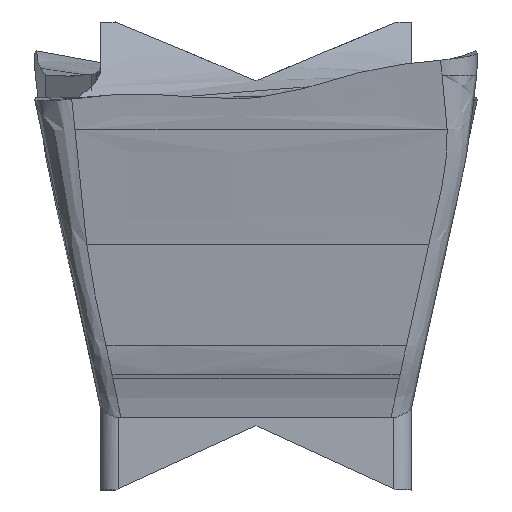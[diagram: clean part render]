
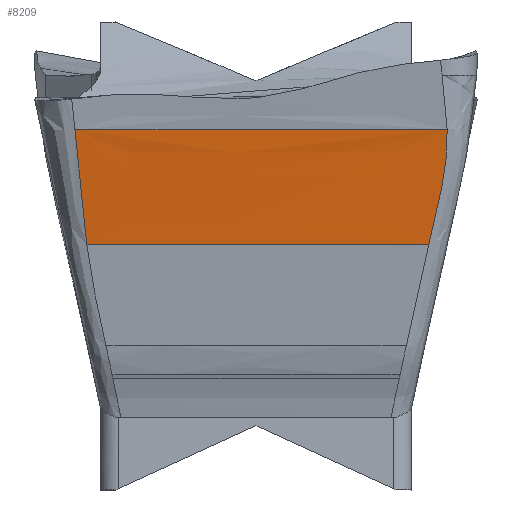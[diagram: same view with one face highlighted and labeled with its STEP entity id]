
A CAD part, front view. The second image highlights one B-rep face of the part: STEP entity #8209.
In plain terms, the highlighted free-form (B-spline) face has degree [5, 5] with [8, 6] control points.
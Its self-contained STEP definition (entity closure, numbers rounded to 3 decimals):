
#4582=CARTESIAN_POINT('Vertex',(2.577,0.201,-0.634)) ;
#4586=CARTESIAN_POINT('Control Point',(2.33,0.402,-2.186)) ;
#4587=CARTESIAN_POINT('Control Point',(2.333,0.401,-2.173)) ;
#4588=CARTESIAN_POINT('Control Point',(2.336,0.399,-2.161)) ;
#4589=CARTESIAN_POINT('Control Point',(2.366,0.382,-2.025)) ;
#4590=CARTESIAN_POINT('Control Point',(2.397,0.366,-1.889)) ;
#4591=CARTESIAN_POINT('Control Point',(2.426,0.348,-1.752)) ;
#4592=CARTESIAN_POINT('Control Point',(2.499,0.31,-1.458)) ;
#4593=CARTESIAN_POINT('Control Point',(2.555,0.271,-1.161)) ;
#4594=CARTESIAN_POINT('Control Point',(2.573,0.248,-0.986)) ;
#4595=CARTESIAN_POINT('Control Point',(2.582,0.224,-0.81)) ;
#4596=CARTESIAN_POINT('Control Point',(2.577,0.201,-0.634)) ;
#4597=CARTESIAN_POINT('Vertex',(2.33,0.402,-2.186)) ;
#8092=CARTESIAN_POINT('Vertex',(-2.441,0.16,-0.638)) ;
#8096=CARTESIAN_POINT('Control Point',(-2.441,0.16,-0.638)) ;
#8097=CARTESIAN_POINT('Control Point',(-1.876,0.179,-0.636)) ;
#8098=CARTESIAN_POINT('Control Point',(-1.176,0.194,-0.635)) ;
#8099=CARTESIAN_POINT('Control Point',(-0.172,0.137,-0.641)) ;
#8100=CARTESIAN_POINT('Control Point',(0.831,0.204,-0.633)) ;
#8101=CARTESIAN_POINT('Control Point',(1.835,0.209,-0.633)) ;
#8102=CARTESIAN_POINT('Control Point',(2.274,0.205,-0.634)) ;
#8103=CARTESIAN_POINT('Control Point',(2.577,0.201,-0.634)) ;
#8120=CARTESIAN_POINT('Control Point',(-3.024,0.402,-2.186)) ;
#8121=CARTESIAN_POINT('Control Point',(-3.024,0.364,-1.875)) ;
#8122=CARTESIAN_POINT('Control Point',(-3.024,0.305,-1.566)) ;
#8123=CARTESIAN_POINT('Control Point',(-3.024,0.238,-1.26)) ;
#8124=CARTESIAN_POINT('Control Point',(-3.024,0.182,-0.952)) ;
#8125=CARTESIAN_POINT('Control Point',(-3.024,0.142,-0.641)) ;
#8126=CARTESIAN_POINT('Control Point',(-2.343,0.402,-2.186)) ;
#8127=CARTESIAN_POINT('Control Point',(-2.343,0.364,-1.875)) ;
#8128=CARTESIAN_POINT('Control Point',(-2.343,0.312,-1.566)) ;
#8129=CARTESIAN_POINT('Control Point',(-2.343,0.255,-1.257)) ;
#8130=CARTESIAN_POINT('Control Point',(-2.343,0.198,-0.949)) ;
#8131=CARTESIAN_POINT('Control Point',(-2.343,0.157,-0.638)) ;
#8132=CARTESIAN_POINT('Control Point',(-1.526,0.402,-2.186)) ;
#8133=CARTESIAN_POINT('Control Point',(-1.526,0.364,-1.875)) ;
#8134=CARTESIAN_POINT('Control Point',(-1.526,0.331,-1.564)) ;
#8135=CARTESIAN_POINT('Control Point',(-1.526,0.297,-1.253)) ;
#8136=CARTESIAN_POINT('Control Point',(-1.526,0.261,-0.942)) ;
#8137=CARTESIAN_POINT('Control Point',(-1.526,0.219,-0.632)) ;
#8138=CARTESIAN_POINT('Control Point',(-0.299,0.402,-2.186)) ;
#8139=CARTESIAN_POINT('Control Point',(-0.299,0.364,-1.875)) ;
#8140=CARTESIAN_POINT('Control Point',(-0.299,0.295,-1.567)) ;
#8141=CARTESIAN_POINT('Control Point',(-0.299,0.217,-1.262)) ;
#8142=CARTESIAN_POINT('Control Point',(-0.299,0.149,-0.955)) ;
#8143=CARTESIAN_POINT('Control Point',(-0.299,0.112,-0.644)) ;
#8144=CARTESIAN_POINT('Control Point',(0.926,0.402,-2.186)) ;
#8145=CARTESIAN_POINT('Control Point',(0.926,0.364,-1.875)) ;
#8146=CARTESIAN_POINT('Control Point',(0.926,0.333,-1.564)) ;
#8147=CARTESIAN_POINT('Control Point',(0.926,0.303,-1.252)) ;
#8148=CARTESIAN_POINT('Control Point',(0.926,0.266,-0.941)) ;
#8149=CARTESIAN_POINT('Control Point',(0.926,0.22,-0.632)) ;
#8150=CARTESIAN_POINT('Control Point',(2.152,0.402,-2.186)) ;
#8151=CARTESIAN_POINT('Control Point',(2.152,0.364,-1.875)) ;
#8152=CARTESIAN_POINT('Control Point',(2.152,0.325,-1.565)) ;
#8153=CARTESIAN_POINT('Control Point',(2.152,0.285,-1.255)) ;
#8154=CARTESIAN_POINT('Control Point',(2.152,0.247,-0.944)) ;
#8155=CARTESIAN_POINT('Control Point',(2.152,0.209,-0.634)) ;
#8156=CARTESIAN_POINT('Control Point',(2.697,0.402,-2.186)) ;
#8157=CARTESIAN_POINT('Control Point',(2.697,0.364,-1.875)) ;
#8158=CARTESIAN_POINT('Control Point',(2.697,0.324,-1.565)) ;
#8159=CARTESIAN_POINT('Control Point',(2.697,0.283,-1.255)) ;
#8160=CARTESIAN_POINT('Control Point',(2.697,0.24,-0.944)) ;
#8161=CARTESIAN_POINT('Control Point',(2.697,0.198,-0.634)) ;
#8162=CARTESIAN_POINT('Control Point',(3.105,0.402,-2.186)) ;
#8163=CARTESIAN_POINT('Control Point',(3.105,0.364,-1.875)) ;
#8164=CARTESIAN_POINT('Control Point',(3.105,0.323,-1.565)) ;
#8165=CARTESIAN_POINT('Control Point',(3.105,0.28,-1.255)) ;
#8166=CARTESIAN_POINT('Control Point',(3.105,0.237,-0.945)) ;
#8167=CARTESIAN_POINT('Control Point',(3.105,0.195,-0.635)) ;
#8169=CARTESIAN_POINT('Control Point',(-2.281,0.402,-2.186)) ;
#8170=CARTESIAN_POINT('Control Point',(-1.749,0.402,-2.186)) ;
#8171=CARTESIAN_POINT('Control Point',(-1.08,0.402,-2.186)) ;
#8172=CARTESIAN_POINT('Control Point',(-0.158,0.402,-2.186)) ;
#8173=CARTESIAN_POINT('Control Point',(0.764,0.402,-2.186)) ;
#8174=CARTESIAN_POINT('Control Point',(1.687,0.402,-2.186)) ;
#8175=CARTESIAN_POINT('Control Point',(2.076,0.402,-2.186)) ;
#8176=CARTESIAN_POINT('Control Point',(2.33,0.402,-2.186)) ;
#8177=CARTESIAN_POINT('Vertex',(-2.281,0.402,-2.186)) ;
#8181=CARTESIAN_POINT('Control Point',(-2.281,0.402,-2.186)) ;
#8182=CARTESIAN_POINT('Control Point',(-2.288,0.394,-2.118)) ;
#8183=CARTESIAN_POINT('Control Point',(-2.294,0.385,-2.05)) ;
#8184=CARTESIAN_POINT('Control Point',(-2.3,0.376,-1.987)) ;
#8185=CARTESIAN_POINT('Control Point',(-2.312,0.357,-1.854)) ;
#8186=CARTESIAN_POINT('Control Point',(-2.326,0.335,-1.718)) ;
#8187=CARTESIAN_POINT('Control Point',(-2.332,0.327,-1.667)) ;
#8188=CARTESIAN_POINT('Control Point',(-2.346,0.305,-1.531)) ;
#8189=CARTESIAN_POINT('Control Point',(-2.36,0.283,-1.403)) ;
#8190=CARTESIAN_POINT('Control Point',(-2.365,0.274,-1.35)) ;
#8191=CARTESIAN_POINT('Control Point',(-2.376,0.256,-1.247)) ;
#8192=CARTESIAN_POINT('Control Point',(-2.387,0.239,-1.146)) ;
#8193=CARTESIAN_POINT('Control Point',(-2.392,0.23,-1.096)) ;
#8194=CARTESIAN_POINT('Control Point',(-2.402,0.216,-1.006)) ;
#8195=CARTESIAN_POINT('Control Point',(-2.412,0.2,-0.911)) ;
#8196=CARTESIAN_POINT('Control Point',(-2.415,0.196,-0.881)) ;
#8197=CARTESIAN_POINT('Control Point',(-2.422,0.185,-0.811)) ;
#8198=CARTESIAN_POINT('Control Point',(-2.43,0.175,-0.742)) ;
#8199=CARTESIAN_POINT('Control Point',(-2.433,0.17,-0.707)) ;
#8200=CARTESIAN_POINT('Control Point',(-2.437,0.165,-0.673)) ;
#8201=CARTESIAN_POINT('Control Point',(-2.441,0.16,-0.638)) ;
#8204=ORIENTED_EDGE('',*,*,#8179,.T.) ;
#8205=ORIENTED_EDGE('',*,*,#4599,.T.) ;
#8206=ORIENTED_EDGE('',*,*,#8104,.F.) ;
#8207=ORIENTED_EDGE('',*,*,#8202,.F.) ;
#8209=ADVANCED_FACE('CUT',(#8208),#8119,.T.) ;
#4585=B_SPLINE_CURVE_WITH_KNOTS('',5,(#4586,#4587,#4588,#4589,#4590,#4591,#4592,#4593,#4594,#4595,#4596),.UNSPECIFIED.,.F.,.U.,(6,2,3,6),(2.709,2.774,3.413,4.302),.UNSPECIFIED.) ;
#8095=B_SPLINE_CURVE_WITH_KNOTS('',5,(#8096,#8097,#8098,#8099,#8100,#8101,#8102,#8103),.UNSPECIFIED.,.F.,.U.,(6,1,1,6),(0.583,3.407,4.089,5.604),.UNSPECIFIED.) ;
#8168=B_SPLINE_CURVE_WITH_KNOTS('',5,(#8169,#8170,#8171,#8172,#8173,#8174,#8175,#8176),.UNSPECIFIED.,.F.,.U.,(6,1,1,6),(0.742,3.406,4.087,5.355),.UNSPECIFIED.) ;
#8180=B_SPLINE_CURVE_WITH_KNOTS('',5,(#8181,#8182,#8183,#8184,#8185,#8186,#8187,#8188,#8189,#8190,#8191,#8192,#8193,#8194,#8195,#8196,#8197,#8198,#8199,#8200,#8201),.UNSPECIFIED.,.F.,.U.,(6,3,3,3,3,3,6),(0.,0.463,0.955,1.382,1.802,2.045,2.279),.UNSPECIFIED.) ;
#8119=B_SPLINE_SURFACE_WITH_KNOTS('',5,5,((#8120,#8121,#8122,#8123,#8124,#8125),(#8126,#8127,#8128,#8129,#8130,#8131),(#8132,#8133,#8134,#8135,#8136,#8137),(#8138,#8139,#8140,#8141,#8142,#8143),(#8144,#8145,#8146,#8147,#8148,#8149),(#8150,#8151,#8152,#8153,#8154,#8155),(#8156,#8157,#8158,#8159,#8160,#8161),(#8162,#8163,#8164,#8165,#8166,#8167)),.UNSPECIFIED.,.F.,.F.,.U.,(6,1,1,6),(6,6),(0.,3.406,4.087,6.131),(1.585,3.152),.UNSPECIFIED.) ;
#4599=EDGE_CURVE('',#4598,#4583,#4585,.T.) ;
#8104=EDGE_CURVE('',#8093,#4583,#8095,.T.) ;
#8179=EDGE_CURVE('',#8178,#4598,#8168,.T.) ;
#8202=EDGE_CURVE('',#8178,#8093,#8180,.T.) ;
#8203=EDGE_LOOP('',(#8204,#8205,#8206,#8207)) ;
#8208=FACE_OUTER_BOUND('',#8203,.T.) ;
#4583=VERTEX_POINT('',#4582) ;
#4598=VERTEX_POINT('',#4597) ;
#8093=VERTEX_POINT('',#8092) ;
#8178=VERTEX_POINT('',#8177) ;
